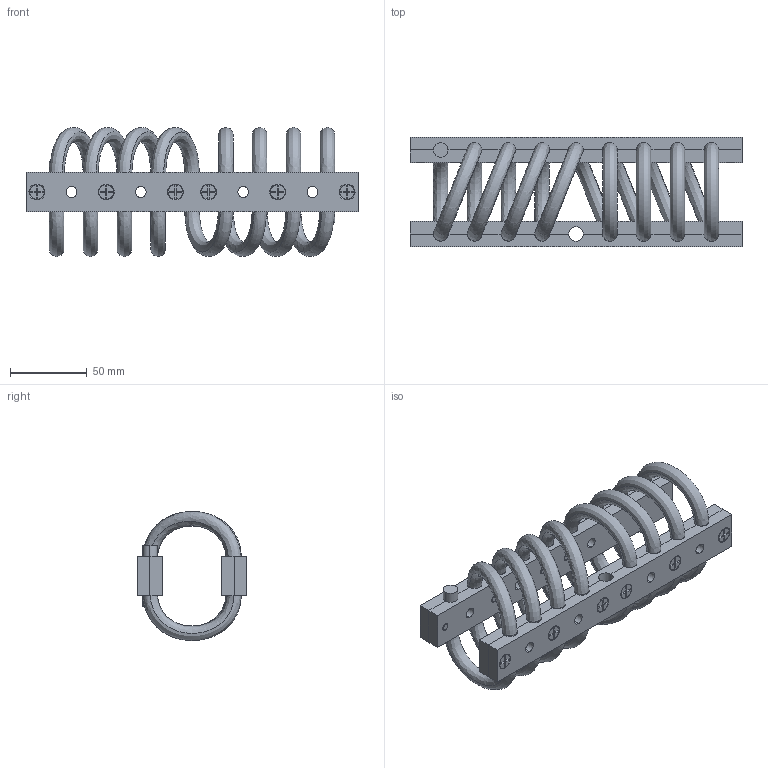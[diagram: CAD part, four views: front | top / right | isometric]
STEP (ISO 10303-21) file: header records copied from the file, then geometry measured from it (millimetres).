
FILE_DESCRIPTION (( 'STEP AP214' ), '1' );
FILE_NAME ('WR12-200-8DM.STEP', '2018-12-07T10:02:21', ( 'user' ), ( 'Microsoft' ), 'SwSTEP 2.0', 'SolidWorks 2016', '' );
FILE_SCHEMA (( 'AUTOMOTIVE_DESIGN' ));
Length unit declared in the file: millimetre
Products named in the file (1): WR12-200-8DM
Bounding box: 215.9 x 71 x 84 mm (x, y, z)
Volume: 275692.5 mm3; surface area: 130436.2 mm2
Topology: 34 solids, 34 shells, 664 faces, 1612 edges, 1052 vertices
Faces by surface type: plane 300, cylinder 258, cone 72, bspline 34
Entity records: 34678 total; most frequent: CARTESIAN_POINT 17864, ORIENTED_EDGE 3224, DIRECTION 3220, EDGE_CURVE 1612, AXIS2_PLACEMENT_3D 1151, VERTEX_POINT 1052, LINE 918, VECTOR 918
